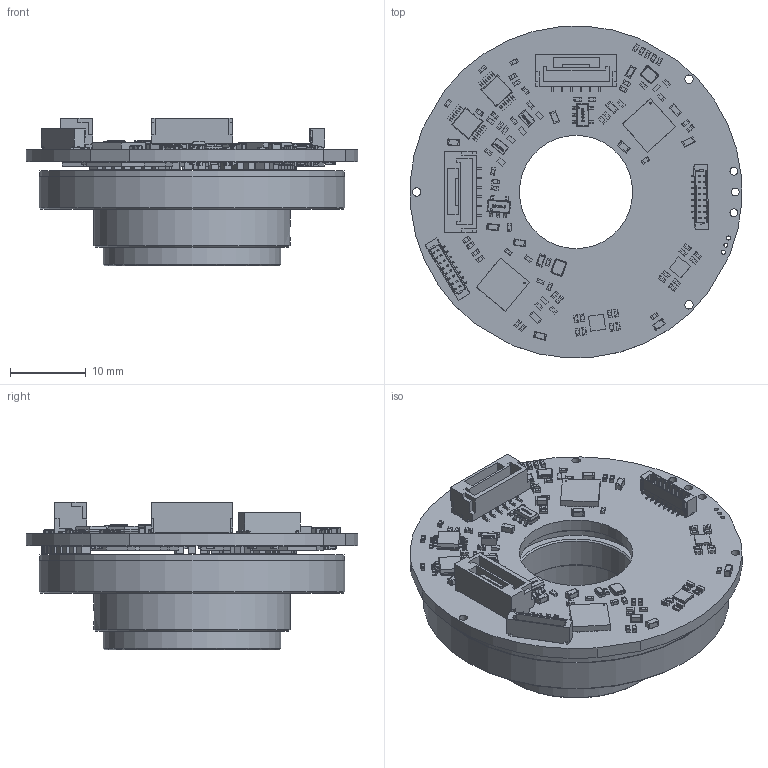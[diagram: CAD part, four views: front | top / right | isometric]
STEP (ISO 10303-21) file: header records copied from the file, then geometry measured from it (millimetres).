
FILE_DESCRIPTION(/* description */ (''),/* implementation_level */ '2;1');
FILE_NAME(/* name */ 'EAS-024.stp',/* time_stamp */ '2025-03-27T15:50:37+08:00',/* author */ (''),/* organization */ (''),/* preprocessor_version */ 'ST-DEVELOPER v15',/* originating_system */ 'SIEMENS PLM Software NX 8.5',/* authorisation */ '');
FILE_SCHEMA (('AUTOMOTIVE_DESIGN { 1 0 10303 214 3 1 1 1 }'));
Products named in the file (1): LeiX28749946ruyk
Bounding box: 43.91 x 43.91 x 19.6 mm (x, y, z)
Volume: 8891 mm3; surface area: 12890.5 mm2
Topology: 546 solids, 554 shells, 9279 faces, 22947 edges, 14342 vertices
Faces by surface type: plane 6506, cylinder 2028, sphere 474, bspline 158, torus 96, cone 17
Full cylindrical faces by diameter (mm): 0.533 x3, 1.05 x3, 1.1 x3, 2.05 x2, 15 x1, 16 x1, 18.1 x1, 19 x1, 20 x1, 23.5 x1, 26 x1, 28.1 x1, 28.3 x1, 30.1 x1, 30.3 x1, 40.3 x1, 40.5 x1
Entity records: 285293 total; most frequent: CARTESIAN_POINT 54404, ORIENTED_EDGE 45030, DIRECTION 44652, EDGE_CURVE 22515, LINE 17806, VECTOR 17806, VERTEX_POINT 14335, AXIS2_PLACEMENT_3D 13423
